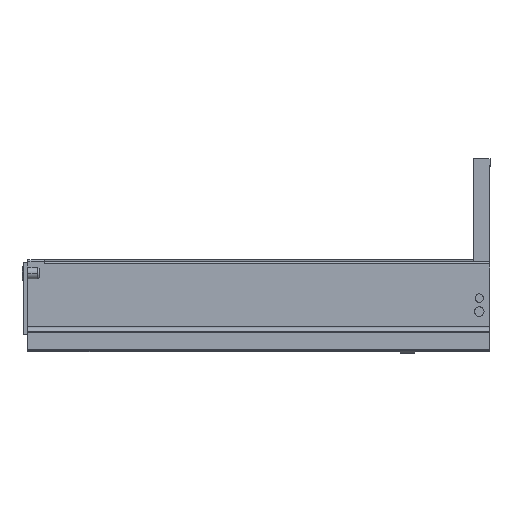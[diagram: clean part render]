
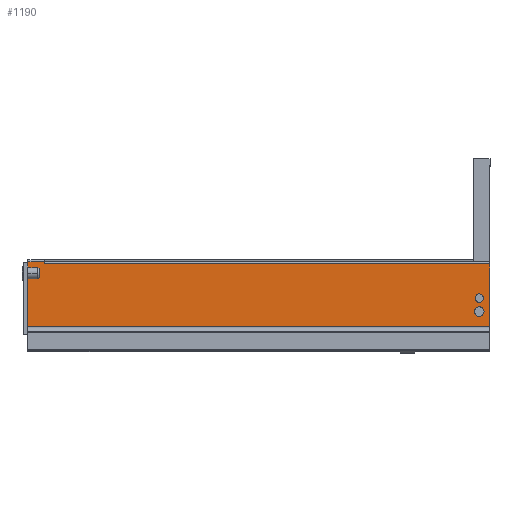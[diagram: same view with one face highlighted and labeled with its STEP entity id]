
A CAD part, left-side view. The second image highlights one B-rep face of the part: STEP entity #1190.
In plain terms, the highlighted planar face has unit normal (-1, 0, 0).
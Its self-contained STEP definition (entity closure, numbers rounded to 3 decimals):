
#24 = LINE ( 'NONE', #2585, #25 ) ;
#25 = VECTOR ( 'NONE', #2586, 1000. ) ;
#31 = LINE ( 'NONE', #2594, #32 ) ;
#32 = VECTOR ( 'NONE', #2595, 1000. ) ;
#33 = LINE ( 'NONE', #2596, #34 ) ;
#34 = VECTOR ( 'NONE', #2597, 1000. ) ;
#35 = LINE ( 'NONE', #2598, #36 ) ;
#36 = VECTOR ( 'NONE', #2599, 1000. ) ;
#37 = LINE ( 'NONE', #2600, #38 ) ;
#38 = VECTOR ( 'NONE', #2601, 1000. ) ;
#39 = CIRCLE ( 'NONE', #1576, 4.1 ) ;
#41 = CIRCLE ( 'NONE', #1577, 4.6 ) ;
#272 = CARTESIAN_POINT ( 'NONE',  ( -21.5, 10.4, 37.1 ) ) ;
#283 = CARTESIAN_POINT ( 'NONE',  ( -21.5, 10.4, 15.4 ) ) ;
#300 = VERTEX_POINT ( 'NONE', #348 ) ;
#319 = CARTESIAN_POINT ( 'NONE',  ( -21.5, 0., 66.06 ) ) ;
#329 = VERTEX_POINT ( 'NONE', #345 ) ;
#345 = CARTESIAN_POINT ( 'NONE',  ( -21.5, 447., 5.395 ) ) ;
#348 = CARTESIAN_POINT ( 'NONE',  ( -21.5, 430.9, 66.06 ) ) ;
#357 = CARTESIAN_POINT ( 'NONE',  ( -21.5, 10.4, 28.9 ) ) ;
#370 = CARTESIAN_POINT ( 'NONE',  ( -21.5, 10.4, 24.6 ) ) ;
#373 = CARTESIAN_POINT ( 'NONE',  ( -21.5, 430.9, 68. ) ) ;
#424 = CARTESIAN_POINT ( 'NONE',  ( -21.5, 447., 68. ) ) ;
#433 = CARTESIAN_POINT ( 'NONE',  ( -21.5, 0., 5.395 ) ) ;
#450 = VERTEX_POINT ( 'NONE', #433 ) ;
#451 = VERTEX_POINT ( 'NONE', #319 ) ;
#480 = VERTEX_POINT ( 'NONE', #424 ) ;
#482 = VERTEX_POINT ( 'NONE', #373 ) ;
#501 = VERTEX_POINT ( 'NONE', #370 ) ;
#504 = VERTEX_POINT ( 'NONE', #357 ) ;
#533 = VERTEX_POINT ( 'NONE', #283 ) ;
#534 = VERTEX_POINT ( 'NONE', #272 ) ;
#797 = PLANE ( 'NONE',  #1518 ) ;
#798 = CARTESIAN_POINT ( 'NONE',  ( -21.5, 447., 68. ) ) ;
#799 = DIRECTION ( 'NONE',  ( -1., 0., 0. ) ) ;
#800 = DIRECTION ( 'NONE',  ( 0., 0., -1. ) ) ;
#1015 = CARTESIAN_POINT ( 'NONE',  ( -21.5, 10.4, 33. ) ) ;
#1016 = DIRECTION ( 'NONE',  ( 1., 0., 0. ) ) ;
#1017 = DIRECTION ( 'NONE',  ( 0., 0., -1. ) ) ;
#1022 = CARTESIAN_POINT ( 'NONE',  ( -21.5, 10.4, 20. ) ) ;
#1023 = DIRECTION ( 'NONE',  ( 1., 0., 0. ) ) ;
#1024 = DIRECTION ( 'NONE',  ( 0., 0., -1. ) ) ;
#1125 = CARTESIAN_POINT ( 'NONE',  ( -21.5, 0., 68. ) ) ;
#1126 = DIRECTION ( 'NONE',  ( 0., 0., -1. ) ) ;
#1190 = ADVANCED_FACE ( 'NONE', ( #2275, #2276, #2277 ), #797, .T. ) ;
#1275 = EDGE_CURVE ( 'NONE', #534, #504, #2404, .T. ) ;
#1278 = EDGE_CURVE ( 'NONE', #501, #533, #2409, .T. ) ;
#1322 = EDGE_CURVE ( 'NONE', #451, #450, #2480, .T. ) ;
#1370 = EDGE_CURVE ( 'NONE', #329, #450, #24, .T. ) ;
#1374 = EDGE_CURVE ( 'NONE', #480, #482, #31, .T. ) ;
#1375 = EDGE_CURVE ( 'NONE', #480, #329, #33, .T. ) ;
#1376 = EDGE_CURVE ( 'NONE', #300, #451, #35, .T. ) ;
#1377 = EDGE_CURVE ( 'NONE', #300, #482, #37, .T. ) ;
#1378 = EDGE_CURVE ( 'NONE', #504, #534, #39, .T. ) ;
#1379 = EDGE_CURVE ( 'NONE', #533, #501, #41, .T. ) ;
#1518 = AXIS2_PLACEMENT_3D ( 'NONE', #798, #799, #800 ) ;
#1554 = AXIS2_PLACEMENT_3D ( 'NONE', #1015, #1016, #1017 ) ;
#1555 = AXIS2_PLACEMENT_3D ( 'NONE', #1022, #1023, #1024 ) ;
#1576 = AXIS2_PLACEMENT_3D ( 'NONE', #2602, #2603, #2604 ) ;
#1577 = AXIS2_PLACEMENT_3D ( 'NONE', #2605, #2606, #2607 ) ;
#1613 = ORIENTED_EDGE ( 'NONE', *, *, #1370, .T. ) ;
#1620 = ORIENTED_EDGE ( 'NONE', *, *, #1322, .F. ) ;
#1645 = ORIENTED_EDGE ( 'NONE', *, *, #1375, .T. ) ;
#1654 = ORIENTED_EDGE ( 'NONE', *, *, #1377, .T. ) ;
#1699 = ORIENTED_EDGE ( 'NONE', *, *, #1376, .F. ) ;
#1750 = EDGE_LOOP ( 'NONE', ( #1752, #1645, #1613, #1620, #1699, #1654 ) ) ;
#1752 = ORIENTED_EDGE ( 'NONE', *, *, #1374, .F. ) ;
#1782 = EDGE_LOOP ( 'NONE', ( #1926, #1945 ) ) ;
#1863 = ORIENTED_EDGE ( 'NONE', *, *, #1378, .T. ) ;
#1886 = EDGE_LOOP ( 'NONE', ( #1863, #1928 ) ) ;
#1926 = ORIENTED_EDGE ( 'NONE', *, *, #1379, .T. ) ;
#1928 = ORIENTED_EDGE ( 'NONE', *, *, #1275, .T. ) ;
#1945 = ORIENTED_EDGE ( 'NONE', *, *, #1278, .T. ) ;
#2275 = FACE_OUTER_BOUND ( 'NONE', #1750, .T. ) ;
#2276 = FACE_BOUND ( 'NONE', #1886, .T. ) ;
#2277 = FACE_BOUND ( 'NONE', #1782, .T. ) ;
#2404 = CIRCLE ( 'NONE', #1554, 4.1 ) ;
#2409 = CIRCLE ( 'NONE', #1555, 4.6 ) ;
#2480 = LINE ( 'NONE', #1125, #2482 ) ;
#2482 = VECTOR ( 'NONE', #1126, 1000. ) ;
#2585 = CARTESIAN_POINT ( 'NONE',  ( -21.5, 447., 5.395 ) ) ;
#2586 = DIRECTION ( 'NONE',  ( 0., -1., 0. ) ) ;
#2594 = CARTESIAN_POINT ( 'NONE',  ( -21.5, 447., 68. ) ) ;
#2595 = DIRECTION ( 'NONE',  ( 0., -1., 0. ) ) ;
#2596 = CARTESIAN_POINT ( 'NONE',  ( -21.5, 447., 5.395 ) ) ;
#2597 = DIRECTION ( 'NONE',  ( 0., 0., -1. ) ) ;
#2598 = CARTESIAN_POINT ( 'NONE',  ( -21.5, 462.981, 66.06 ) ) ;
#2599 = DIRECTION ( 'NONE',  ( 0., -1., 0. ) ) ;
#2600 = CARTESIAN_POINT ( 'NONE',  ( -21.5, 430.9, 68. ) ) ;
#2601 = DIRECTION ( 'NONE',  ( 0., 0., 1. ) ) ;
#2602 = CARTESIAN_POINT ( 'NONE',  ( -21.5, 10.4, 33. ) ) ;
#2603 = DIRECTION ( 'NONE',  ( 1., 0., 0. ) ) ;
#2604 = DIRECTION ( 'NONE',  ( 0., 0., -1. ) ) ;
#2605 = CARTESIAN_POINT ( 'NONE',  ( -21.5, 10.4, 20. ) ) ;
#2606 = DIRECTION ( 'NONE',  ( 1., 0., 0. ) ) ;
#2607 = DIRECTION ( 'NONE',  ( 0., 0., -1. ) ) ;
